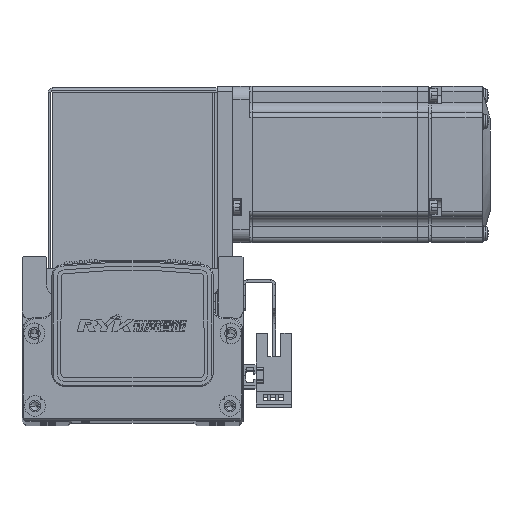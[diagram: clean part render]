
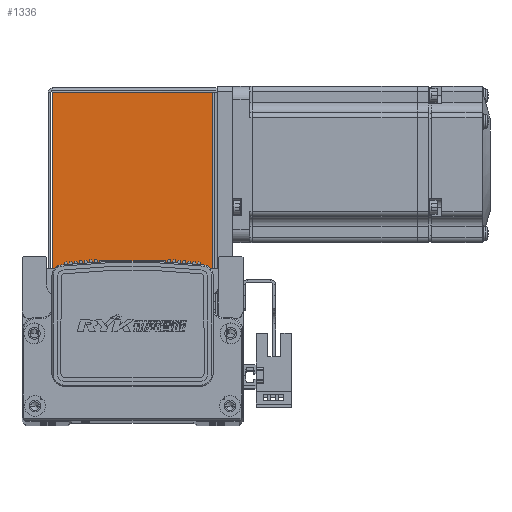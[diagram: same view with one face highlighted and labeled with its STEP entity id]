
A CAD part, top view. The second image highlights one B-rep face of the part: STEP entity #1336.
In plain terms, the highlighted planar face has unit normal (0, 0, 1) as drawn and (0, 0, -1) by its records, which use the part's own axes.
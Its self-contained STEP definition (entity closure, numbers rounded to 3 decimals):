
#1336 = ADVANCED_FACE ( 'NONE', ( #57635 ), #26066, .F. ) ;
#16520 = EDGE_CURVE ( 'NONE', #71222, #71194, #81031, .T. ) ;
#16532 = EDGE_CURVE ( 'NONE', #71222, #71213, #80997, .T. ) ;
#16541 = EDGE_CURVE ( 'NONE', #71206, #71213, #81052, .T. ) ;
#16579 = EDGE_CURVE ( 'NONE', #71194, #71206, #80331, .T. ) ;
#26046 = CARTESIAN_POINT ( 'NONE',  ( 0., 0., -35. ) ) ;
#26054 = DIRECTION ( 'NONE',  ( 0., 0., 1. ) ) ;
#26066 = PLANE ( 'NONE',  #36043 ) ;
#26077 = DIRECTION ( 'NONE',  ( 0., -1., 0. ) ) ;
#36043 = AXIS2_PLACEMENT_3D ( 'NONE', #26046, #26054, #26077 ) ;
#44834 = CARTESIAN_POINT ( 'NONE',  ( -30.793, 0., -35. ) ) ;
#44916 = DIRECTION ( 'NONE',  ( 1., 0., 0. ) ) ;
#44953 = CARTESIAN_POINT ( 'NONE',  ( 32.5, 0.737, -35. ) ) ;
#44981 = DIRECTION ( 'NONE',  ( 0., 1., 0. ) ) ;
#45040 = CARTESIAN_POINT ( 'NONE',  ( 30.763, 68.5, -35. ) ) ;
#45086 = DIRECTION ( 'NONE',  ( 0., -1., 0. ) ) ;
#45195 = CARTESIAN_POINT ( 'NONE',  ( 0., 68.5, -35. ) ) ;
#45238 = DIRECTION ( 'NONE',  ( 1., 0., 0. ) ) ;
#57635 = FACE_OUTER_BOUND ( 'NONE', #79383, .T. ) ;
#66669 = CARTESIAN_POINT ( 'NONE',  ( 30.763, 68.5, -35. ) ) ;
#66676 = CARTESIAN_POINT ( 'NONE',  ( -30.793, 0.737, -35. ) ) ;
#66696 = CARTESIAN_POINT ( 'NONE',  ( -30.793, 68.5, -35. ) ) ;
#66704 = CARTESIAN_POINT ( 'NONE',  ( 30.763, 0.737, -35. ) ) ;
#71194 = VERTEX_POINT ( 'NONE', #66696 ) ;
#71206 = VERTEX_POINT ( 'NONE', #66669 ) ;
#71213 = VERTEX_POINT ( 'NONE', #66704 ) ;
#71222 = VERTEX_POINT ( 'NONE', #66676 ) ;
#77661 = ORIENTED_EDGE ( 'NONE', *, *, #16579, .T. ) ;
#77682 = ORIENTED_EDGE ( 'NONE', *, *, #16532, .F. ) ;
#77700 = ORIENTED_EDGE ( 'NONE', *, *, #16541, .T. ) ;
#77752 = ORIENTED_EDGE ( 'NONE', *, *, #16520, .T. ) ;
#79383 = EDGE_LOOP ( 'NONE', ( #77700, #77682, #77752, #77661 ) ) ;
#80331 = LINE ( 'NONE', #45195, #80458 ) ;
#80458 = VECTOR ( 'NONE', #45238, 1000. ) ;
#80997 = LINE ( 'NONE', #44953, #81005 ) ;
#81005 = VECTOR ( 'NONE', #44916, 1000. ) ;
#81031 = LINE ( 'NONE', #44834, #81038 ) ;
#81038 = VECTOR ( 'NONE', #44981, 1000. ) ;
#81052 = LINE ( 'NONE', #45040, #81064 ) ;
#81064 = VECTOR ( 'NONE', #45086, 1000. ) ;
